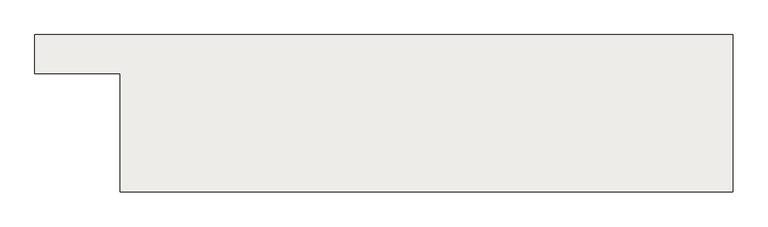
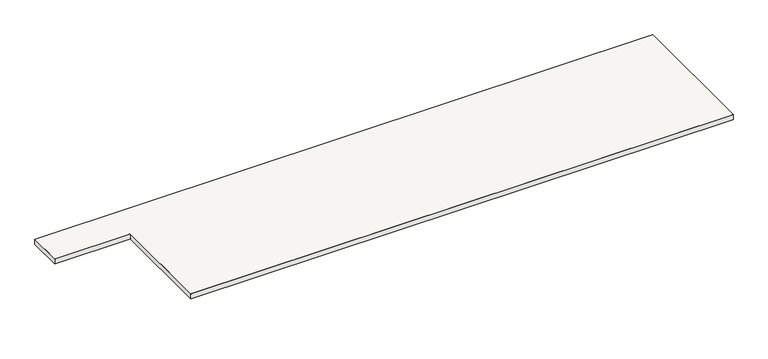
"""IFC4 building model written with IfcOpenShell, lengths in millimetres: slab geometry, Sol-02 - dalle béton 30cm + finition 1cm."""

from ifc_helpers import new_model, si_unit, frame, origin, origin_with_axes, place, context, project, spatial, polyline, outline, extrude, source, transform, mapped, element, save


def slab_af40306d(model_context):
    return source(origin(), model_context, "Body", "SweptSolid", [
        extrude(outline(polyline([(36175.0000007, 19153.1349969), (36175.0000007, 11002.3446595), (4430.0000007, 11002.3446595), (4430.0000007, 17153.1349969), (0.0, 17153.1349969), (0.0, 19153.1349969), (36175.0000007, 19153.1349969)])), frame((0.0, 0.0, 300.0), z_axis=(0.0, 0.0, 1.0), x_axis=(1.0, 0.0, 0.0)), (0.0, 0.0, 1.0), 10.0),
        extrude(outline(polyline([(36175.0000007, 11002.3446595), (4430.0000007, 11002.3446595), (4430.0000007, 17153.1349969), (0.0, 17153.1349969), (0.0, 19153.1349969), (36175.0000007, 19153.1349969), (36175.0000007, 11002.3446595)])), origin_with_axes(), (0.0, 0.0, 1.0), 300.0),
    ])


if __name__ == "__main__":
    model = new_model("IFC4")
    model_context = context("Model", 3, world=origin())
    ifc_project = project(units=[si_unit("LENGTHUNIT", "METRE", prefix="MILLI")], contexts=[model_context])
    site = spatial("IfcSite", under=ifc_project)
    building = spatial("IfcBuilding", under=site)
    placement = place(None, origin())
    slab_shape = slab_af40306d(model_context)
    element("IfcSlab", 1, ObjectType="Sol-02 - dalle béton 30cm + finition 1cm", at=placement, inside=building, context=model_context, shape_type="MappedRepresentation", body=[
        mapped(slab_shape, transform((0.0, 0.0, 0.0), x_axis=(1.0, 0.0, 0.0), y_axis=(0.0, 1.0, 0.0), z_axis=(0.0, 0.0, 1.0))),
    ])
    save(model, "model.ifc")
